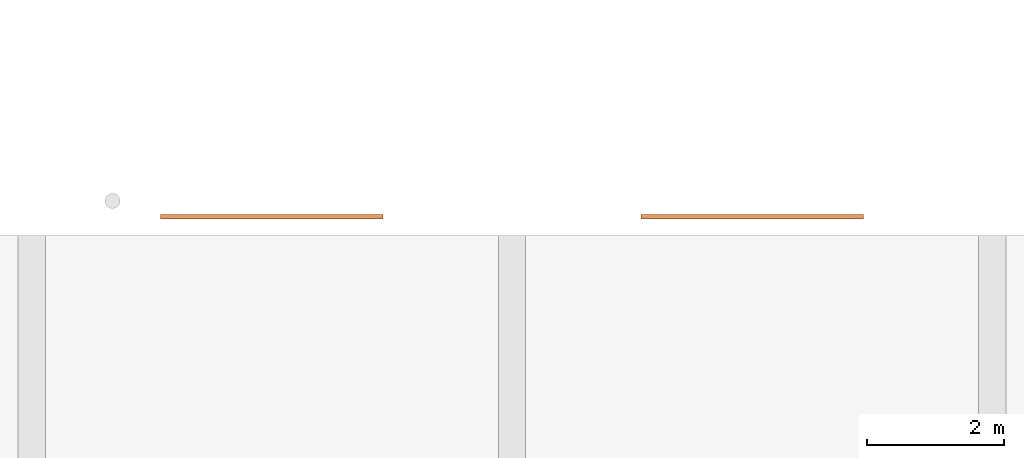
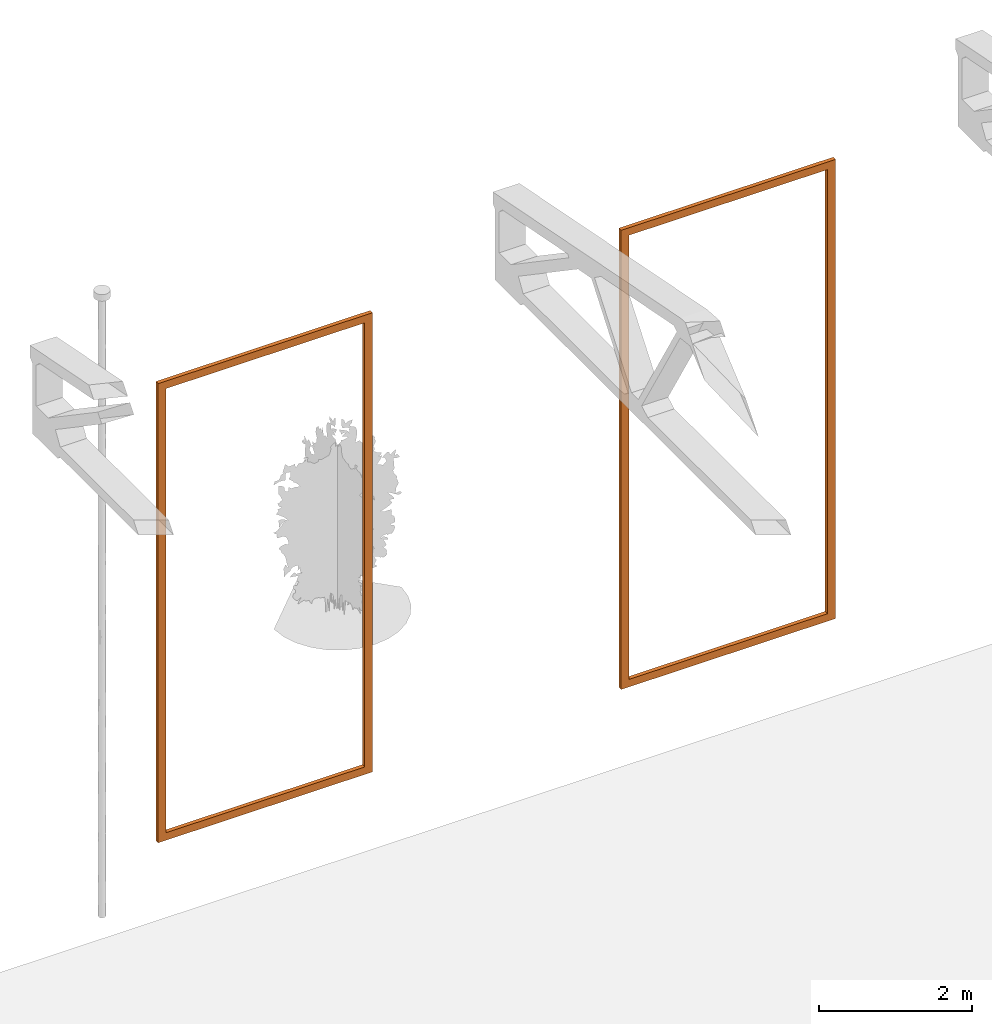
# One storey, part 12 of 14: 2 proxies.
"""IFC2X3 building model written with IfcOpenShell, lengths in millimetres."""

from ifc_helpers import new_model, entity, si_unit, converted_unit, derived_unit, direction, frame, origin, place, context, subcontext, project, spatial, polyline, outline, extrude, source, transform, mapped, material, type_object, type_shapes, element, save


model = new_model("IFC2X3")

# Units and contexts
model_context = context("Model", 3, precision=0.01, world=origin(), true_north=direction((6.12303176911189e-17, 1.0)))
body_context = subcontext(model_context, "Body", "Model", "MODEL_VIEW")
ifc_project = project(units=[si_unit("LENGTHUNIT", "METRE", prefix="MILLI"), si_unit("AREAUNIT", "SQUARE_METRE"), si_unit("VOLUMEUNIT", "CUBIC_METRE"), converted_unit("PLANEANGLEUNIT", "DEGREE", entity("IfcRatioMeasure", 0.0174532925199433), si_unit("PLANEANGLEUNIT", "RADIAN"), dimensions=[0, 0, 0, 0, 0, 0, 0]), si_unit("MASSUNIT", "GRAM", prefix="KILO"), derived_unit("MASSDENSITYUNIT", [(si_unit("MASSUNIT", "GRAM", prefix="KILO"), 1), (si_unit("LENGTHUNIT", "METRE"), -3)]), si_unit("TIMEUNIT", "SECOND"), si_unit("FREQUENCYUNIT", "HERTZ"), si_unit("THERMODYNAMICTEMPERATUREUNIT", "DEGREE_CELSIUS"), derived_unit("THERMALTRANSMITTANCEUNIT", [(si_unit("MASSUNIT", "GRAM", prefix="KILO"), 1), (si_unit("THERMODYNAMICTEMPERATUREUNIT", "KELVIN"), -1), (si_unit("TIMEUNIT", "SECOND"), -3)]), derived_unit("VOLUMETRICFLOWRATEUNIT", [(si_unit("LENGTHUNIT", "METRE"), 3), (si_unit("TIMEUNIT", "SECOND"), -1)]), si_unit("ELECTRICCURRENTUNIT", "AMPERE"), si_unit("ELECTRICVOLTAGEUNIT", "VOLT"), si_unit("POWERUNIT", "WATT"), si_unit("FORCEUNIT", "NEWTON", prefix="KILO"), si_unit("ILLUMINANCEUNIT", "LUX"), si_unit("LUMINOUSFLUXUNIT", "LUMEN"), si_unit("LUMINOUSINTENSITYUNIT", "CANDELA"), derived_unit("USERDEFINED", [(si_unit("MASSUNIT", "GRAM", prefix="KILO"), -1), (si_unit("LENGTHUNIT", "METRE"), -2), (si_unit("TIMEUNIT", "SECOND"), 3), (si_unit("LUMINOUSFLUXUNIT", "LUMEN"), 1)]), derived_unit("LINEARVELOCITYUNIT", [(si_unit("LENGTHUNIT", "METRE"), 1), (si_unit("TIMEUNIT", "SECOND"), -1)]), si_unit("PRESSUREUNIT", "PASCAL"), derived_unit("USERDEFINED", [(si_unit("LENGTHUNIT", "METRE"), -2), (si_unit("MASSUNIT", "GRAM", prefix="KILO"), 1), (si_unit("TIMEUNIT", "SECOND"), -2)])], contexts=[model_context])

# Site, building, storey
site_placement = place(None, origin())
site = spatial("IfcSite", under=ifc_project, at=site_placement, Name="表面", CompositionType="ELEMENT")
building_placement = place(site_placement, origin())
building = spatial("IfcBuilding", under=site, at=building_placement, CompositionType="ELEMENT")
storey_placement = place(building_placement, origin())
storey = spatial("IfcBuildingStorey", under=building, at=storey_placement, Name="±0.000", CompositionType="ELEMENT", Elevation=0.0)

# Proxies
ifc_material = material(Name="砖石建筑 - 瓷砖")
building_element_proxy_type_1 = type_object("IfcBuildingElementProxyType", Name="3mX7100", PredefinedType="NOTDEFINED", material=ifc_material)
shared_shape_1 = source(origin(), body_context, "Body", "SweptSolid", [
    extrude(outline(polyline([(-1620.0, -3670.0), (1620.0, -3670.0), (1620.0, 3670.0), (-1620.0, 3670.0), (-1620.0, -3670.0)]), holes=[polyline([(-1500.0, -3550.0), (-1500.0, 3550.0), (1500.0, 3550.0), (1500.0, -3550.0), (-1500.0, -3550.0)])]), frame((125.0, 120.0, 4029.66314124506), z_axis=(0.0, 1.0, 0.0), x_axis=(1.0, 0.0, 0.0)), (0.0, 0.0, 1.0), 60.0),
])
type_shapes(building_element_proxy_type_1, [shared_shape_1])
proxy_1_placement = place(storey_placement, frame((-7653.7987814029, 15729.6974073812, 680.336858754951)))
element("IfcBuildingElementProxy", 1, at=proxy_1_placement, inside=storey, type_object=building_element_proxy_type_1, material=ifc_material, Name="基于墙的墙面装饰:3mX7100", ObjectType="3mX7100", context=body_context, shape_type="MappedRepresentation", body=[
    mapped(shared_shape_1, transform((0.0, 0.0, 0.0), scale=1.0)),
])
building_element_proxy_type_2 = type_object("IfcBuildingElementProxyType", Name="3mX7100", PredefinedType="NOTDEFINED", material=ifc_material)
shared_shape_2 = source(origin(), body_context, "Body", "SweptSolid", [
    extrude(outline(polyline([(-1620.0, -3670.0), (1620.0, -3670.0), (1620.0, 3670.0), (-1620.0, 3670.0), (-1620.0, -3670.0)]), holes=[polyline([(-1500.0, -3550.0), (-1500.0, 3550.0), (1500.0, 3550.0), (1500.0, -3550.0), (-1500.0, -3550.0)])]), frame((125.0, -180.0, 4029.66314124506), z_axis=(0.0, 1.0, 0.0), x_axis=(1.0, 0.0, 0.0)), (0.0, 0.0, 1.0), 60.0),
])
type_shapes(building_element_proxy_type_2, [shared_shape_2])
proxy_2_placement = place(storey_placement, frame((-403.798781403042, 15729.6974073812, 680.336858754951), z_axis=(0.0, 0.0, 1.0), x_axis=(-1.0, 0.0, 0.0)))
element("IfcBuildingElementProxy", 2, at=proxy_2_placement, inside=storey, type_object=building_element_proxy_type_2, material=ifc_material, Name="基于墙的墙面装饰:3mX7100", ObjectType="3mX7100", context=body_context, shape_type="MappedRepresentation", body=[
    mapped(shared_shape_2, transform((0.0, 0.0, 0.0), scale=1.0)),
])

save(model, "model.ifc")
